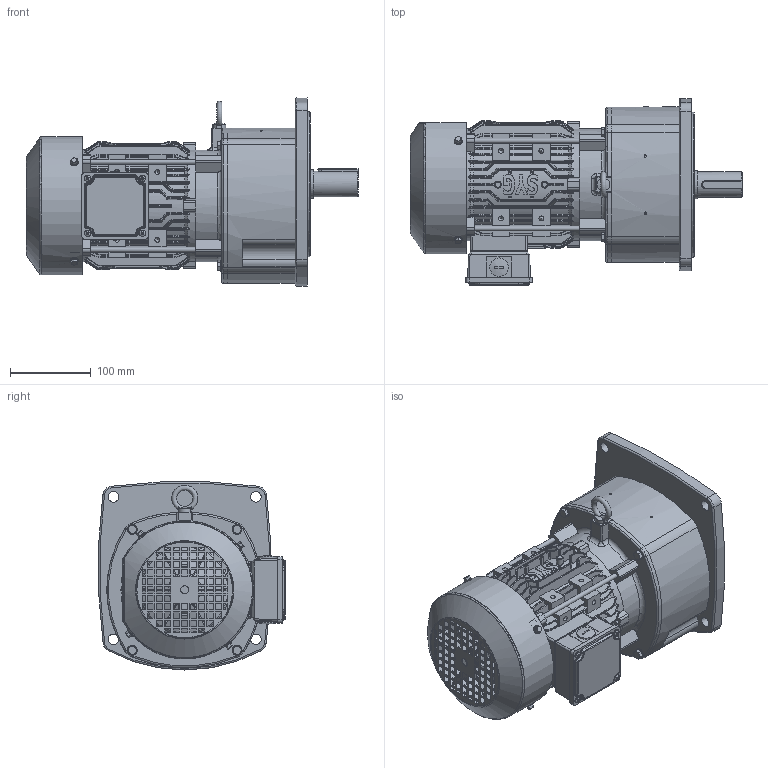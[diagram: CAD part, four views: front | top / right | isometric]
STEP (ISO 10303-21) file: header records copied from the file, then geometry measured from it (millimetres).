
FILE_DESCRIPTION(/* description */ (''),/* implementation_level */ '2;1');
FILE_NAME(/* name */ 'D:\▼ 3D：M2\00. 내부 직접 검토품\M2-135\외형도용 - ASS''Y\SK2\M213500B - OUTLINE (SK2，VT，0.75kW).stp',/* time_stamp */ '2026-05-18T10:27:03+09:00',/* author */ ('이정훈'),/* organization */ (''),/* preprocessor_version */ 'ST-DEVELOPER v18.1',/* originating_system */ 'Autodesk Inventor 2022',/* authorisation */ '');
FILE_SCHEMA (('AUTOMOTIVE_DESIGN { 1 0 10303 214 3 1 1 }'));
Length unit declared in the file: millimetre
Products named in the file (1): M213500B - OUTLINE (SK2，VT，0.75
kW)
Bounding box: 412 x 231.87 x 233.34 mm (x, y, z)
Volume: 7169178.8 mm3; surface area: 525798 mm2
Topology: 1 solids, 1 shells, 3889 faces, 10386 edges, 6508 vertices
Faces by surface type: plane 1652, cylinder 1128, bspline 694, cone 222, torus 175, sphere 18
Full cylindrical faces by diameter (mm): 3 x2, 4.8 x4, 5 x4, 6 x12, 6.647 x4, 6.8 x4, 8 x4, 10 x1, 13 x4, 18.631 x1, 20 x1, 23 x2, 32 x1, 35 x1, 55 x1, 78 x1, 168 x1, 180 x1
Entity records: 162753 total; most frequent: CARTESIAN_POINT 68968, ORIENTED_EDGE 20674, DIRECTION 18451, EDGE_CURVE 10337, AXIS2_PLACEMENT_3D 6684, VERTEX_POINT 6508, LINE 5083, VECTOR 5083
